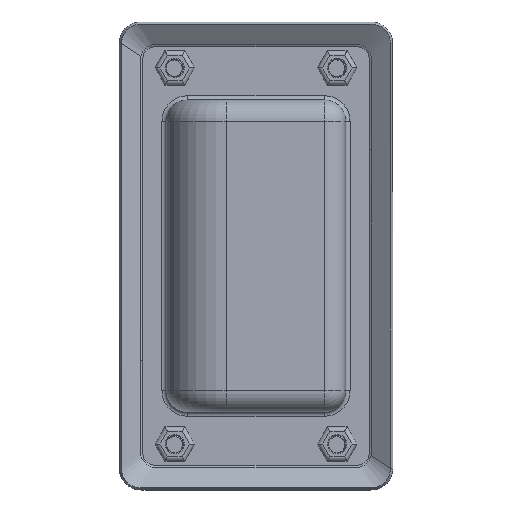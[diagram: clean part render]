
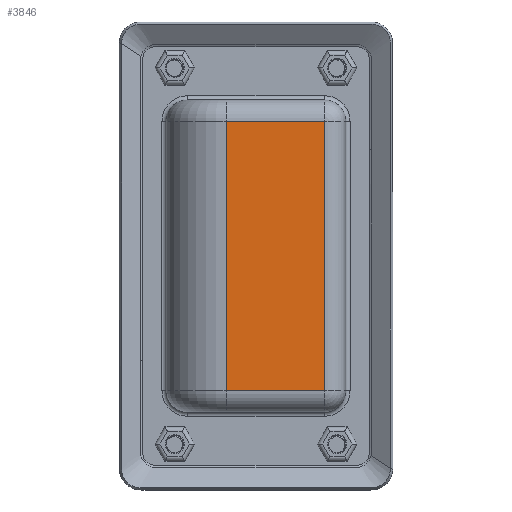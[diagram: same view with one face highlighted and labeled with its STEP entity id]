
A CAD part, front view. The second image highlights one B-rep face of the part: STEP entity #3846.
In plain terms, the highlighted planar face has unit normal (0, -1, 0).
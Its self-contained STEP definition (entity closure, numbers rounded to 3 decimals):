
#1257 = CARTESIAN_POINT ( 'NONE',  ( -7., 0., -31.5 ) ) ;
#1581 = EDGE_CURVE ( 'NONE', #28996, #20193, #26963, .T. ) ;
#3294 = CARTESIAN_POINT ( 'NONE',  ( 16., 0., -36.5 ) ) ;
#3641 = ORIENTED_EDGE ( 'NONE', *, *, #7910, .T. ) ;
#3846 = ADVANCED_FACE ( 'NONE', ( #7749 ), #21532, .F. ) ;
#4601 = CARTESIAN_POINT ( 'NONE',  ( -7., 0., -36.5 ) ) ;
#5458 = CARTESIAN_POINT ( 'NONE',  ( -7., 0., 31.5 ) ) ;
#5718 = ORIENTED_EDGE ( 'NONE', *, *, #8599, .F. ) ;
#6211 = CARTESIAN_POINT ( 'NONE',  ( 0., 0., -31.5 ) ) ;
#7093 = EDGE_LOOP ( 'NONE', ( #5718, #16132, #23570, #3641 ) ) ;
#7511 = VECTOR ( 'NONE', #24629, 1000. ) ;
#7749 = FACE_OUTER_BOUND ( 'NONE', #7093, .T. ) ;
#7910 = EDGE_CURVE ( 'NONE', #10299, #25481, #24243, .T. ) ;
#8599 = EDGE_CURVE ( 'NONE', #28996, #25481, #18391, .T. ) ;
#9738 = CARTESIAN_POINT ( 'NONE',  ( 0., 0., 0. ) ) ;
#10299 = VERTEX_POINT ( 'NONE', #25807 ) ;
#10487 = CARTESIAN_POINT ( 'NONE',  ( 0., 0., 31.5 ) ) ;
#12004 = DIRECTION ( 'NONE',  ( 0., 0., 1. ) ) ;
#12586 = VECTOR ( 'NONE', #15462, 1000. ) ;
#14137 = VECTOR ( 'NONE', #23058, 1000. ) ;
#15263 = LINE ( 'NONE', #3294, #7511 ) ;
#15462 = DIRECTION ( 'NONE',  ( 1., 0., 0. ) ) ;
#16132 = ORIENTED_EDGE ( 'NONE', *, *, #1581, .T. ) ;
#16555 = VECTOR ( 'NONE', #24695, 1000. ) ;
#18303 = CARTESIAN_POINT ( 'NONE',  ( 16., 0., -31.5 ) ) ;
#18391 = LINE ( 'NONE', #4601, #14137 ) ;
#19127 = DIRECTION ( 'NONE',  ( 0., 1., 0. ) ) ;
#20193 = VERTEX_POINT ( 'NONE', #18303 ) ;
#21532 = PLANE ( 'NONE',  #23712 ) ;
#23058 = DIRECTION ( 'NONE',  ( 0., 0., 1. ) ) ;
#23570 = ORIENTED_EDGE ( 'NONE', *, *, #26599, .T. ) ;
#23712 = AXIS2_PLACEMENT_3D ( 'NONE', #9738, #19127, #12004 ) ;
#24243 = LINE ( 'NONE', #10487, #16555 ) ;
#24629 = DIRECTION ( 'NONE',  ( 0., 0., 1. ) ) ;
#24695 = DIRECTION ( 'NONE',  ( -1., 0., 0. ) ) ;
#25481 = VERTEX_POINT ( 'NONE', #5458 ) ;
#25807 = CARTESIAN_POINT ( 'NONE',  ( 16., 0., 31.5 ) ) ;
#26599 = EDGE_CURVE ( 'NONE', #20193, #10299, #15263, .T. ) ;
#26963 = LINE ( 'NONE', #6211, #12586 ) ;
#28996 = VERTEX_POINT ( 'NONE', #1257 ) ;
